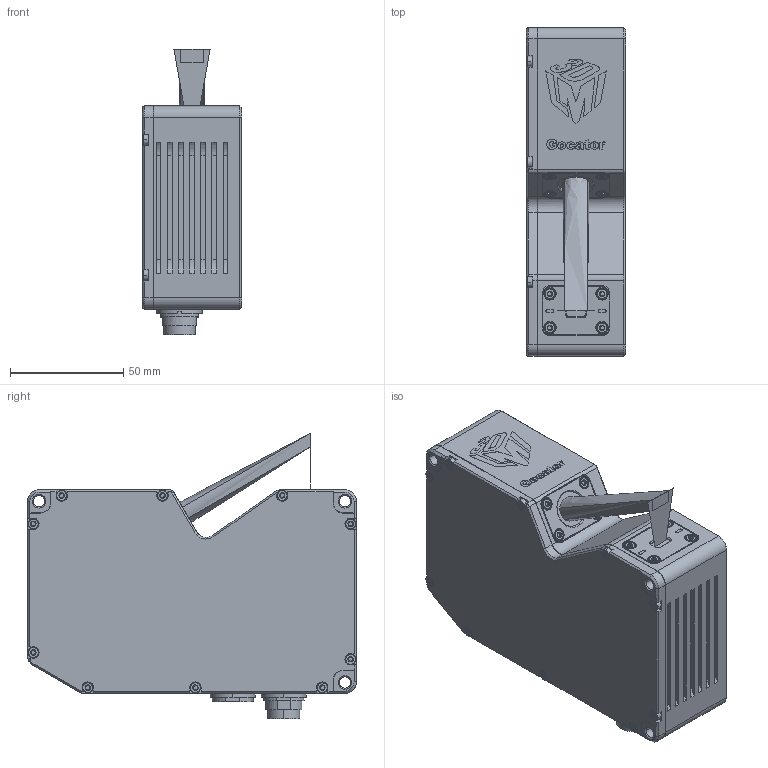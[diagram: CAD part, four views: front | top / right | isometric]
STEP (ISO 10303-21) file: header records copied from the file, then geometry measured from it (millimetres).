
FILE_DESCRIPTION (( 'STEP AP214' ), '1' );
FILE_NAME ('25019.01.02_CAD_Gocator-2410_312410A-X-B-01-S.STEP', '2019-02-22T20:53:57', ( '' ), ( '' ), 'SwSTEP 2.0', 'SolidWorks 2018', '' );
FILE_SCHEMA (( 'AUTOMOTIVE_DESIGN' ));
Length unit declared in the file: millimetre
Products named in the file (1): 25019.01.02_CAD_Gocator-2410_312410A-X-B-01-S
Bounding box: 44 x 145 x 126 mm (x, y, z)
Surface area: 57292.3 mm2 (no closed solid volume)
Topology: 0 solids, 4 shells, 1822 faces, 4621 edges, 2950 vertices
Faces by surface type: plane 667, cylinder 631, bspline 260, cone 244, torus 20
Entity records: 85938 total; most frequent: CARTESIAN_POINT 24937, ORIENTED_EDGE 9166, DIRECTION 7219, EDGE_CURVE 4587, VERTEX_POINT 2950, AXIS2_PLACEMENT_3D 2413, VECTOR 2393, LINE 2393
